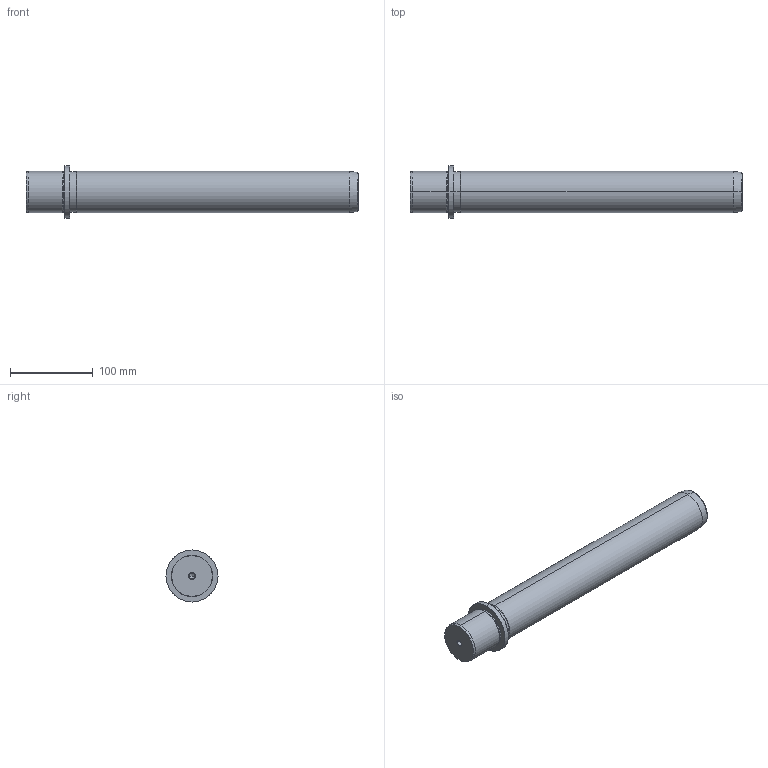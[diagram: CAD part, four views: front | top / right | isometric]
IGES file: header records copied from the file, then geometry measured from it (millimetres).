
Start section: START RECORD GO HERE.
Global section: file name: 719-50x355.igs; native system: DASSAULT SYSTEMES CATIA V5 R20 - www.3ds.com; preprocessor: CATIA Version 5 Release 20 ; author: Utente; organization: NB04-ASUS; date: 20210103.155722; units: millimetre
Bounding box: 402 x 63 x 63 mm (x, y, z)
Surface area: 70429.5 mm2 (no closed solid volume)
Topology: 0 solids, 0 shells, 36 faces, 196 edges, 192 vertices
Faces by surface type: revolution 32, plane 4
